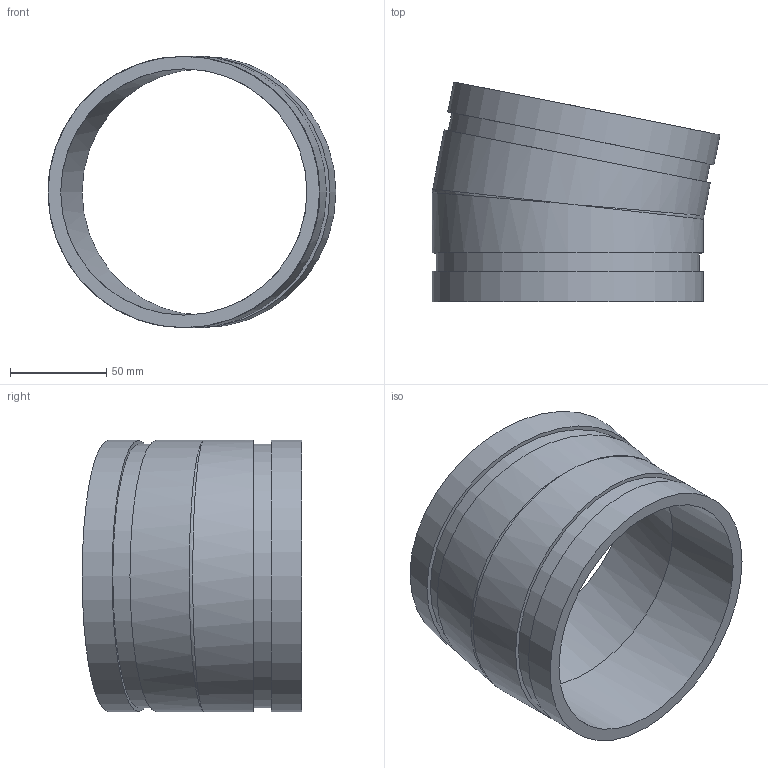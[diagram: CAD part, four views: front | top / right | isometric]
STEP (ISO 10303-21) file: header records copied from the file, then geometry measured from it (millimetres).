
FILE_DESCRIPTION(/* description */ ('VIC 11-1/4 DEG. ELBOW No 13','CAx-IF Rec.Pracs.---Representation and Presentation of Product Manufacturing Information (PMI)---4.0---2014-10-13'),/* implementation_level */ '2;1');
FILE_NAME(/* name */ 'C:\Users\kkamble\AppData\Roaming\Autodesk\ApplicationPlugins\Back Up\Victaulic_IPS_Elbow 11.25 Deg_No 13 (OGS)\Victaulic_IPS_Elbow 11.25 Deg_No 13 (OGS)_5 (125).stp',/* time_stamp */ '2020-07-24T08:09:13+06:00',/* author */ ('CONSTRUCTION PIPING SERVICES'),/* organization */ ('Victaulic'),/* preprocessor_version */ 'ST-DEVELOPER v17.2',/* originating_system */ 'Autodesk Inventor 2019',/* authorisation */ '');
FILE_SCHEMA (('AP242_MANAGED_MODEL_BASED_3D_ENGINEERING_MIM_LF { 1 0 10303 442 1 1 4 }'));
Length unit declared in the file: inch
Products named in the file (1): 013-05.0
Bounding box: 149.85 x 114.41 x 141.3 mm (x, y, z)
Volume: 264076.7 mm3; surface area: 95041.6 mm2
Topology: 1 solids, 1 shells, 16 faces, 37 edges, 23 vertices
Faces by surface type: cylinder 8, plane 6, bspline 2
Full cylindrical faces by diameter (mm): 128.194 x2, 137.033 x2, 141.3 x4
Entity records: 581 total; most frequent: CARTESIAN_POINT 151, DIRECTION 88, ORIENTED_EDGE 66, AXIS2_PLACEMENT_3D 40, EDGE_CURVE 33, VERTEX_POINT 23, EDGE_LOOP 22, STYLED_ITEM 17
